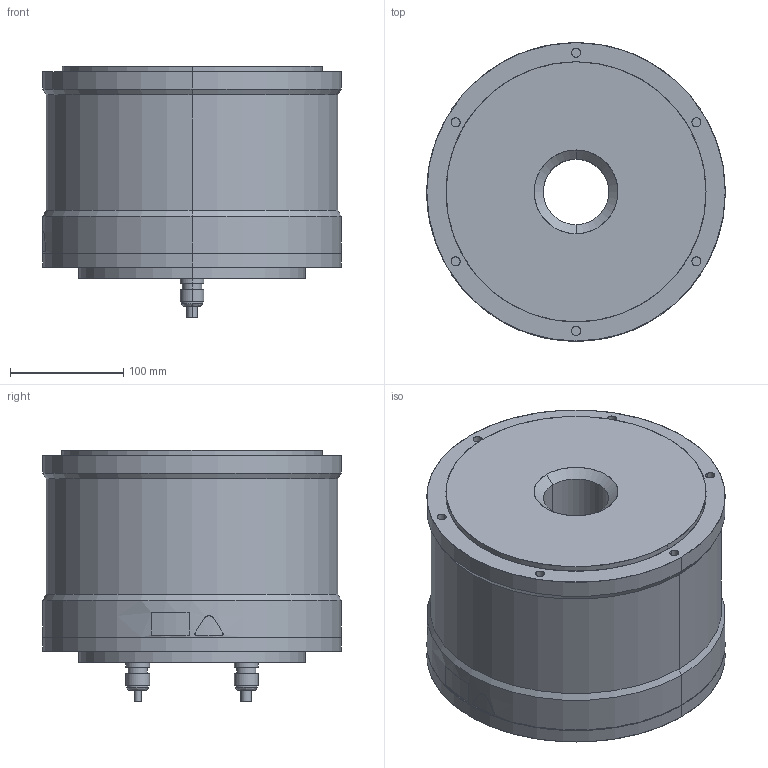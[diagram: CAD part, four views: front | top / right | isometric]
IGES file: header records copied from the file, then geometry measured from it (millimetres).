
Start section: SolidWorks IGES file using analytic representation for surfaces
Bounding box: 264.08 x 264 x 222.8 mm (x, y, z)
Surface area: 305191.2 mm2 (no closed solid volume)
Topology: 0 solids, 0 shells, 224 faces, 5268 edges, 5268 vertices
Faces by surface type: revolution 142, bspline 82
